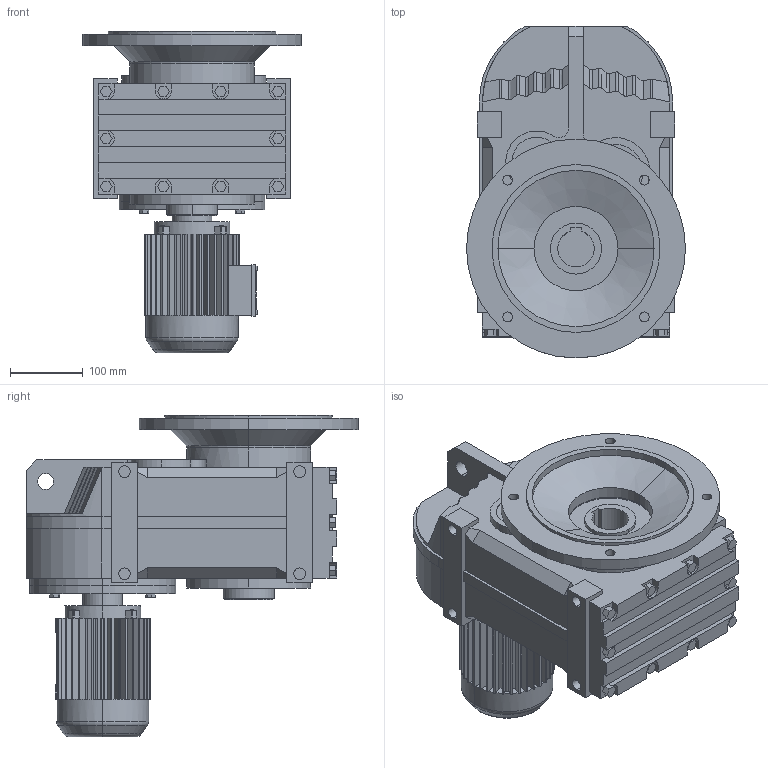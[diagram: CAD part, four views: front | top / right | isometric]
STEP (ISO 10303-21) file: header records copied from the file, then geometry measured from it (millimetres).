
FILE_DESCRIPTION(('Open CASCADE Model'),'2;1');
FILE_NAME('Open CASCADE Shape Model','2021-07-15T14:55:17',('Author'),( 'Open CASCADE'),'Open CASCADE STEP processor 6.3','Open CASCADE 6.3' ,'Unknown');
FILE_SCHEMA(('AUTOMOTIVE_DESIGN_CC2 { 1 2 10303 214 -1 1 5 4 }'));
Length unit declared in the file: millimetre
Products named in the file (5): 1_FAF77-Y63S; FA27‵157_77.step; 萇儂_200_Y63S.step; す瑩諾陑粣F_77.step; 楊擘F_77.step
Assembly tree (4 placements, depth 2):
  1_FAF77-Y63S
    FA27‵157_77.step
    萇儂_200_Y63S.step
    す瑩諾陑粣F_77.step
    楊擘F_77.step
Bounding box: 300 x 455 x 441 mm (x, y, z)
Volume: 19526192.2 mm3; surface area: 1036134 mm2
Topology: 4 solids, 4 shells, 806 faces, 2117 edges, 1376 vertices
Faces by surface type: plane 570, cylinder 210, bspline 16, cone 6, torus 4
Entity records: 53929 total; most frequent: CARTESIAN_POINT 13277, DIRECTION 7107, ORIENTED_EDGE 4234, PCURVE 4234, DEFINITIONAL_REPRESENTATION 4234, LINE 3961, VECTOR 3961, EDGE_CURVE 2117
